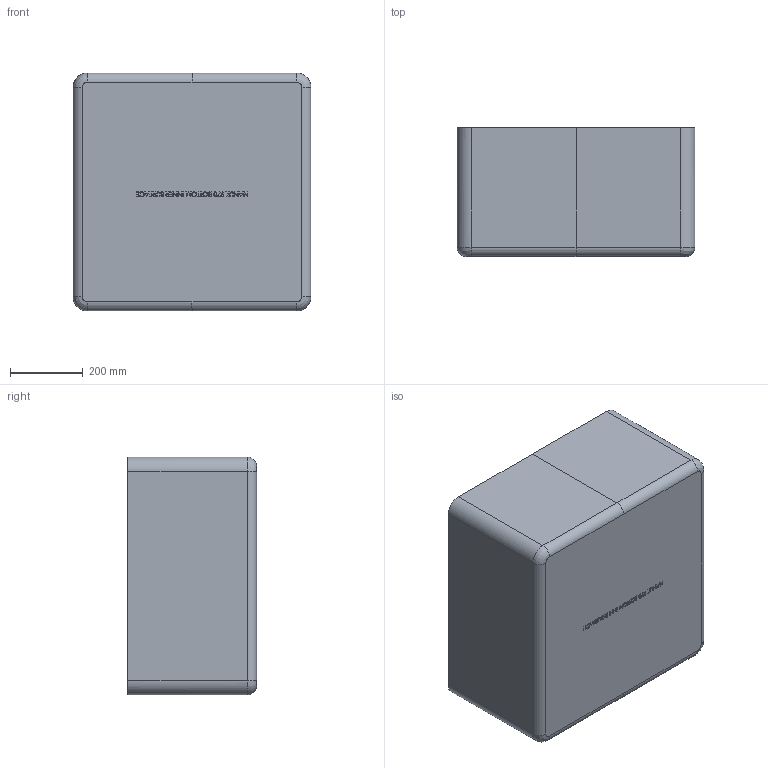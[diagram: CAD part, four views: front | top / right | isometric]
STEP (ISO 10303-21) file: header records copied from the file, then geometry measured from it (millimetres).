
FILE_DESCRIPTION (( 'STEP AP203' ), '1' );
FILE_NAME ('970_Btm_INNER_SURFACE_STEP.STEP', '2020-02-18T21:06:57', ( '' ), ( '' ), 'SwSTEP 2.0', 'SolidWorks 2018', '' );
FILE_SCHEMA (( 'CONFIG_CONTROL_DESIGN' ));
Products named in the file (1): 970_Btm_INNER_SURFACE_STEP
Bounding box: 653.53 x 354.86 x 653.53 mm (x, y, z)
Volume: 34283200.2 mm3; surface area: 2506035 mm2
Topology: 1 solids, 1 shells, 2254 faces, 5439 edges, 3226 vertices
Faces by surface type: bspline 828, plane 605, cylinder 567, sphere 118, cone 90, torus 46
Entity records: 104279 total; most frequent: CARTESIAN_POINT 58791, ORIENTED_EDGE 10734, DIRECTION 7775, EDGE_CURVE 5367, VERTEX_POINT 3226, AXIS2_PLACEMENT_3D 2805, EDGE_LOOP 2365, FACE_OUTER_BOUND 2254
